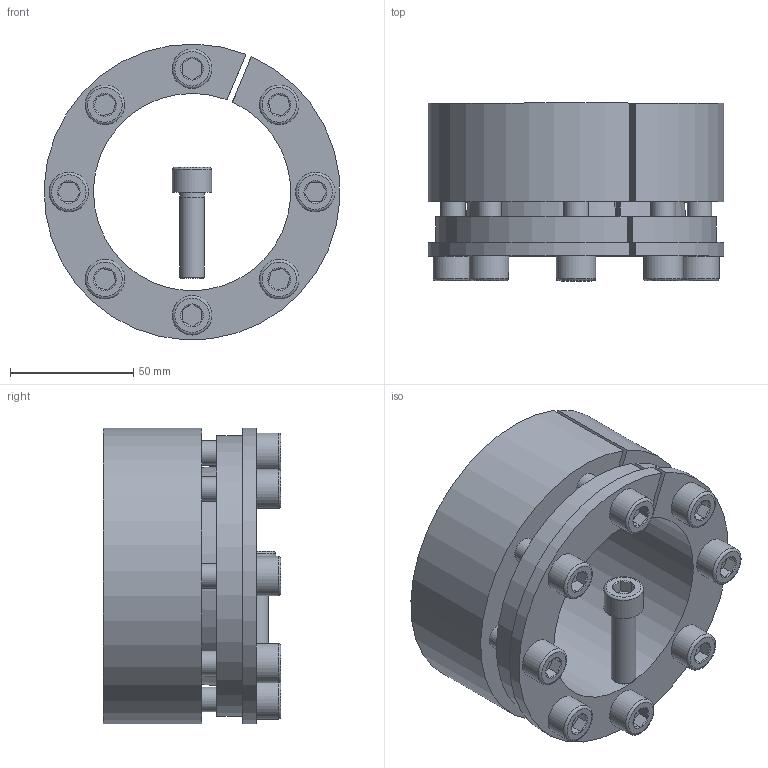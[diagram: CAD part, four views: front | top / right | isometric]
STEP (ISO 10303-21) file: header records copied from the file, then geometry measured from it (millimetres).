
FILE_DESCRIPTION( ( 'Unknown' ), '1' );
FILE_NAME( 'C:/Dokumente und Einstellungen/Sven/Desktop/homepage/cad - homepage/KBS70/KBS 70 - 80 x 120.stp', 'Unknown', ( 'Unknown' ), ( 'Unknown' ), 'XStep 1.0', 'Unknown', ' ' );
FILE_SCHEMA( ( 'automotive_design' ) );
Length unit declared in the file: millimetre
Products named in the file (3): Assem1; KBS 70 - 80 x 120; ISO EN DIN 4762 M10x35
Bounding box: 119.87 x 72 x 119.92 mm (x, y, z)
Volume: 657554.3 mm3; surface area: 168115.5 mm2
Topology: 11 solids, 11 shells, 285 faces, 583 edges, 356 vertices
Faces by surface type: plane 124, cylinder 76, cone 67, torus 18
Full cylindrical faces by diameter (mm): 9 x9, 10 x50, 16 x9
Entity records: 1882 total; most frequent: CARTESIAN_POINT 305, DIRECTION 284, ORIENTED_EDGE 206, AXIS2_PLACEMENT_3D 126, EDGE_LOOP 114, EDGE_CURVE 103, VERTEX_POINT 79, FACE_OUTER_BOUND 77
